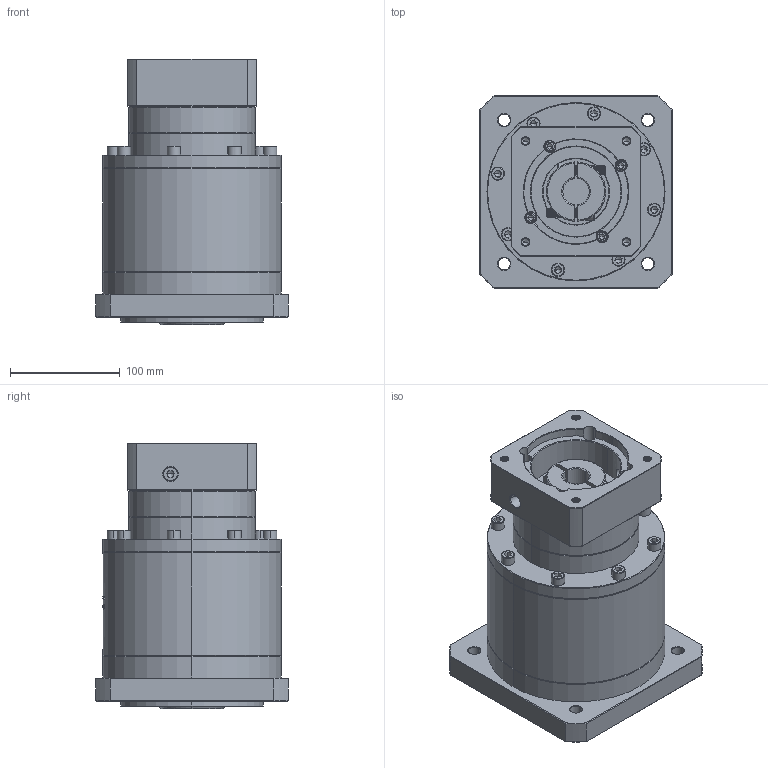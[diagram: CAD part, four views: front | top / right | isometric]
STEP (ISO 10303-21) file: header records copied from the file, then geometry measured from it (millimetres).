
FILE_DESCRIPTION (( 'STEP AP214' ), '1' );
FILE_NAME ('ZF160-K35-L3-24-95-130-M8.step', '2023-03-22T04:00:42', ( '' ), ( '' ), 'SwSTEP 2.0', 'SolidWorks 2016', '' );
FILE_SCHEMA (( 'AUTOMOTIVE_DESIGN' ));
Length unit declared in the file: millimetre
Products named in the file (1): ZF160-K35-L3-24-95-130-M8
Bounding box: 175 x 175 x 241.7 mm (x, y, z)
Volume: 4050059.3 mm3; surface area: 275242.9 mm2
Topology: 6 solids, 6 shells, 1804 faces, 4552 edges, 2869 vertices
Faces by surface type: plane 739, cylinder 450, cone 354, bspline 205, torus 56
Entity records: 92859 total; most frequent: CARTESIAN_POINT 31775, ORIENTED_EDGE 9000, DIRECTION 7960, EDGE_CURVE 4500, VERTEX_POINT 2869, AXIS2_PLACEMENT_3D 2758, LINE 2444, VECTOR 2444
